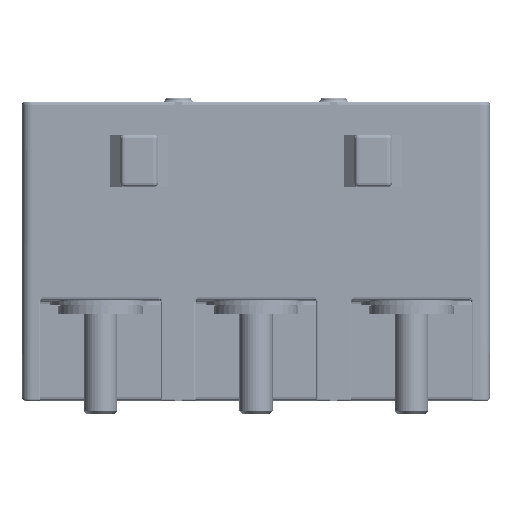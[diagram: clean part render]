
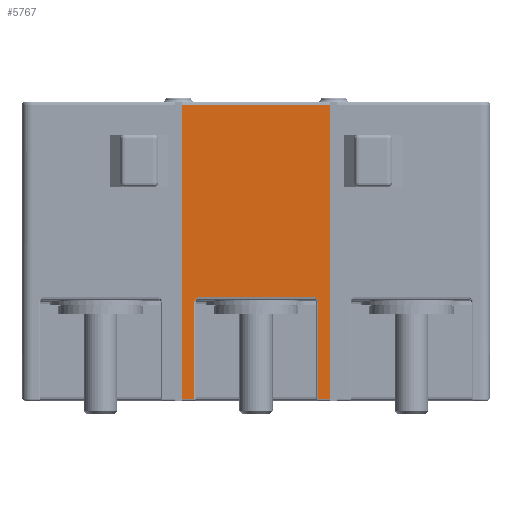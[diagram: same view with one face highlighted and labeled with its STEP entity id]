
A CAD part, front view. The second image highlights one B-rep face of the part: STEP entity #5767.
In plain terms, the highlighted planar face has unit normal (0, -1, 0) as drawn and (0, 0, -1) by its records, which use the part's own axes.
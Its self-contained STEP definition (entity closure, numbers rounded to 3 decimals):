
#4115=FACE_OUTER_BOUND('',#9605,.T.);
#5767=ADVANCED_FACE('',(#4115),#6677,.T.);
#6677=PLANE('',#35072);
#9605=EDGE_LOOP('',(#14635,#14636,#14637,#14638,#14639,#14640,#14641,#14642,
#14643,#14644));
#14635=ORIENTED_EDGE('',*,*,#22199,.F.);
#14636=ORIENTED_EDGE('',*,*,#22203,.T.);
#14637=ORIENTED_EDGE('',*,*,#22204,.T.);
#14638=ORIENTED_EDGE('',*,*,#22205,.T.);
#14639=ORIENTED_EDGE('',*,*,#22206,.T.);
#14640=ORIENTED_EDGE('',*,*,#22207,.T.);
#14641=ORIENTED_EDGE('',*,*,#22208,.T.);
#14642=ORIENTED_EDGE('',*,*,#22209,.T.);
#14643=ORIENTED_EDGE('',*,*,#22210,.T.);
#14644=ORIENTED_EDGE('',*,*,#22211,.T.);
#19236=VERTEX_POINT('',#63666);
#19237=VERTEX_POINT('',#63667);
#19239=VERTEX_POINT('',#63674);
#19240=VERTEX_POINT('',#63676);
#19241=VERTEX_POINT('',#63678);
#19242=VERTEX_POINT('',#63680);
#19243=VERTEX_POINT('',#63700);
#19244=VERTEX_POINT('',#63702);
#19245=VERTEX_POINT('',#63722);
#19246=VERTEX_POINT('',#63724);
#22199=EDGE_CURVE('',#19236,#19237,#29696,.T.);
#22203=EDGE_CURVE('',#19236,#19239,#29698,.T.);
#22204=EDGE_CURVE('',#19239,#19240,#29699,.T.);
#22205=EDGE_CURVE('',#19240,#19241,#29700,.T.);
#22206=EDGE_CURVE('',#19241,#19242,#29701,.T.);
#22207=EDGE_CURVE('',#19242,#19243,#24299,.T.);
#22208=EDGE_CURVE('',#19243,#19244,#29702,.T.);
#22209=EDGE_CURVE('',#19244,#19245,#24300,.T.);
#22210=EDGE_CURVE('',#19245,#19246,#29703,.T.);
#22211=EDGE_CURVE('',#19246,#19237,#29704,.T.);
#24299=B_SPLINE_CURVE_WITH_KNOTS('',3,(#63681,#63682,#63683,#63684,#63685,
#63686,#63687,#63688,#63689,#63690,#63691,#63692,#63693,#63694,#63695,#63696,
#63697,#63698,#63699),.UNSPECIFIED.,.F.,.F.,(4,3,3,3,3,3,4),(0.,0.211,
0.431,0.795,0.896,0.996,
1.),.UNSPECIFIED.);
#24300=B_SPLINE_CURVE_WITH_KNOTS('',3,(#63703,#63704,#63705,#63706,#63707,
#63708,#63709,#63710,#63711,#63712,#63713,#63714,#63715,#63716,#63717,#63718,
#63719,#63720,#63721),.UNSPECIFIED.,.F.,.F.,(4,3,3,3,3,3,4),(0.,0.004,
0.104,0.205,0.569,0.789,
1.),.UNSPECIFIED.);
#29696=LINE('',#63665,#32391);
#29698=LINE('',#63673,#32393);
#29699=LINE('',#63675,#32394);
#29700=LINE('',#63677,#32395);
#29701=LINE('',#63679,#32396);
#29702=LINE('',#63701,#32397);
#29703=LINE('',#63723,#32398);
#29704=LINE('',#63725,#32399);
#32391=VECTOR('',#42668,1.);
#32393=VECTOR('',#42676,1.);
#32394=VECTOR('',#42677,1.);
#32395=VECTOR('',#42678,1.);
#32396=VECTOR('',#42679,1.);
#32397=VECTOR('',#42680,1.);
#32398=VECTOR('',#42681,1.);
#32399=VECTOR('',#42682,1.);
#35072=AXIS2_PLACEMENT_3D('',#63726,#42683,#42684);
#42668=DIRECTION('',(0.,-1.,0.));
#42676=DIRECTION('',(1.,0.,0.));
#42677=DIRECTION('',(0.,-1.,0.));
#42678=DIRECTION('',(-1.,0.,0.));
#42679=DIRECTION('',(0.,1.,0.));
#42680=DIRECTION('',(-1.,0.,0.));
#42681=DIRECTION('',(0.,-1.,0.));
#42682=DIRECTION('',(-1.,0.,0.));
#42683=DIRECTION('',(0.,0.,-1.));
#42684=DIRECTION('',(1.,0.,0.));
#63665=CARTESIAN_POINT('',(45.1,72.5,0.));
#63666=CARTESIAN_POINT('',(45.1,88.5,0.));
#63667=CARTESIAN_POINT('',(45.1,0.5,0.));
#63673=CARTESIAN_POINT('',(131.5,88.5,0.));
#63674=CARTESIAN_POINT('',(89.4,88.5,0.));
#63675=CARTESIAN_POINT('',(89.4,72.5,0.));
#63676=CARTESIAN_POINT('',(89.4,0.5,0.));
#63677=CARTESIAN_POINT('',(131.5,0.5,0.));
#63678=CARTESIAN_POINT('',(85.75,0.5,0.));
#63679=CARTESIAN_POINT('',(85.75,31.,0.));
#63680=CARTESIAN_POINT('',(85.75,29.586,0.));
#63681=CARTESIAN_POINT('',(85.75,29.586,0.));
#63682=CARTESIAN_POINT('',(85.75,29.712,0.));
#63683=CARTESIAN_POINT('',(85.728,29.841,0.));
#63684=CARTESIAN_POINT('',(85.688,29.961,0.));
#63685=CARTESIAN_POINT('',(85.646,30.086,0.));
#63686=CARTESIAN_POINT('',(85.584,30.206,0.));
#63687=CARTESIAN_POINT('',(85.508,30.315,0.));
#63688=CARTESIAN_POINT('',(85.384,30.494,0.));
#63689=CARTESIAN_POINT('',(85.221,30.646,0.));
#63690=CARTESIAN_POINT('',(85.05,30.781,0.));
#63691=CARTESIAN_POINT('',(85.002,30.818,0.));
#63692=CARTESIAN_POINT('',(84.953,30.855,0.));
#63693=CARTESIAN_POINT('',(84.904,30.89,0.));
#63694=CARTESIAN_POINT('',(84.855,30.926,0.));
#63695=CARTESIAN_POINT('',(84.805,30.961,0.));
#63696=CARTESIAN_POINT('',(84.755,30.996,0.));
#63697=CARTESIAN_POINT('',(84.753,30.998,0.));
#63698=CARTESIAN_POINT('',(84.752,30.999,0.));
#63699=CARTESIAN_POINT('',(84.75,31.,0.));
#63700=CARTESIAN_POINT('',(84.75,31.,0.));
#63701=CARTESIAN_POINT('',(131.5,31.,0.));
#63702=CARTESIAN_POINT('',(49.75,31.,0.));
#63703=CARTESIAN_POINT('',(49.75,31.,0.));
#63704=CARTESIAN_POINT('',(49.748,30.999,0.));
#63705=CARTESIAN_POINT('',(49.747,30.998,0.));
#63706=CARTESIAN_POINT('',(49.745,30.996,0.));
#63707=CARTESIAN_POINT('',(49.695,30.961,0.));
#63708=CARTESIAN_POINT('',(49.645,30.926,0.));
#63709=CARTESIAN_POINT('',(49.596,30.89,0.));
#63710=CARTESIAN_POINT('',(49.547,30.855,0.));
#63711=CARTESIAN_POINT('',(49.498,30.818,0.));
#63712=CARTESIAN_POINT('',(49.45,30.781,0.));
#63713=CARTESIAN_POINT('',(49.279,30.646,0.));
#63714=CARTESIAN_POINT('',(49.116,30.494,0.));
#63715=CARTESIAN_POINT('',(48.992,30.315,0.));
#63716=CARTESIAN_POINT('',(48.916,30.206,0.));
#63717=CARTESIAN_POINT('',(48.854,30.086,0.));
#63718=CARTESIAN_POINT('',(48.812,29.961,0.));
#63719=CARTESIAN_POINT('',(48.772,29.841,0.));
#63720=CARTESIAN_POINT('',(48.75,29.712,0.));
#63721=CARTESIAN_POINT('',(48.75,29.586,0.));
#63722=CARTESIAN_POINT('',(48.75,29.586,0.));
#63723=CARTESIAN_POINT('',(48.75,0.,0.));
#63724=CARTESIAN_POINT('',(48.75,0.5,0.));
#63725=CARTESIAN_POINT('',(131.5,0.5,0.));
#63726=CARTESIAN_POINT('',(131.5,89.5,0.));
